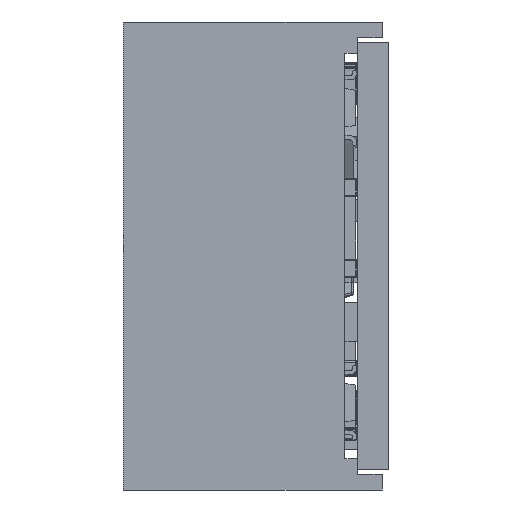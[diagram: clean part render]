
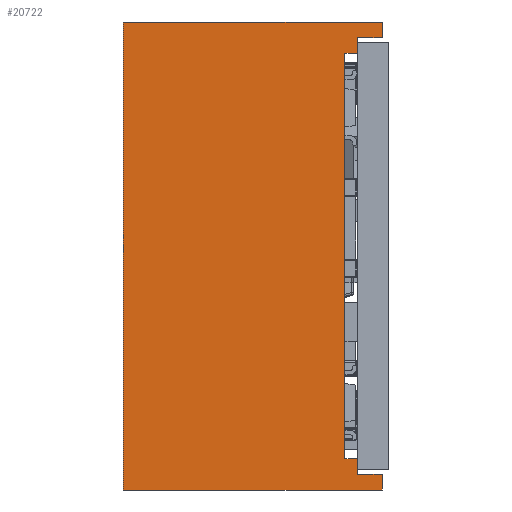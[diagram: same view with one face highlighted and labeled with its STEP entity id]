
A CAD part, left-side view. The second image highlights one B-rep face of the part: STEP entity #20722.
In plain terms, the highlighted planar face has unit normal (-1, 0, 0).
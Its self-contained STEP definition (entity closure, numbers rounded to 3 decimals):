
#1139 = ORIENTED_EDGE ( 'NONE', *, *, #1506, .T. ) ;
#1506 = EDGE_CURVE ( 'NONE', #37704, #31986, #42345, .T. ) ;
#1631 = CARTESIAN_POINT ( 'NONE',  ( -11.7, 0.2, 7.5 ) ) ;
#1651 = VECTOR ( 'NONE', #19368, 1000. ) ;
#2274 = CARTESIAN_POINT ( 'NONE',  ( -11.7, 8.5, -7.5 ) ) ;
#3427 = VECTOR ( 'NONE', #23398, 1000. ) ;
#3536 = CARTESIAN_POINT ( 'NONE',  ( -11.7, 0.2, -7.5 ) ) ;
#4578 = DIRECTION ( 'NONE',  ( 0., -1., 0. ) ) ;
#4691 = VECTOR ( 'NONE', #4578, 1000. ) ;
#5156 = EDGE_LOOP ( 'NONE', ( #25819, #74208, #6156, #56564, #68149, #35603, #1139, #56215, #39573, #58697, #56746, #43160 ) ) ;
#5196 = CARTESIAN_POINT ( 'NONE',  ( -11.7, 4.494, 0. ) ) ;
#6156 = ORIENTED_EDGE ( 'NONE', *, *, #32292, .T. ) ;
#8676 = VECTOR ( 'NONE', #48161, 1000. ) ;
#9864 = EDGE_CURVE ( 'NONE', #45702, #30390, #39982, .T. ) ;
#10115 = DIRECTION ( 'NONE',  ( 0., 0., 1. ) ) ;
#10575 = DIRECTION ( 'NONE',  ( 0., 0., 1. ) ) ;
#10635 = CARTESIAN_POINT ( 'NONE',  ( -11.7, 1.4, -6.5 ) ) ;
#11689 = DIRECTION ( 'NONE',  ( -1., 0., 0. ) ) ;
#12689 = EDGE_CURVE ( 'NONE', #45076, #16164, #20960, .T. ) ;
#13259 = VERTEX_POINT ( 'NONE', #2274 ) ;
#13360 = DIRECTION ( 'NONE',  ( 0., 1., 0. ) ) ;
#15535 = CARTESIAN_POINT ( 'NONE',  ( -11.7, 1., 6.5 ) ) ;
#16164 = VERTEX_POINT ( 'NONE', #66114 ) ;
#16737 = VECTOR ( 'NONE', #63577, 1000. ) ;
#17324 = LINE ( 'NONE', #1631, #45487 ) ;
#19213 = EDGE_CURVE ( 'NONE', #31986, #73732, #62001, .T. ) ;
#19368 = DIRECTION ( 'NONE',  ( 0., 1., 0. ) ) ;
#19484 = CARTESIAN_POINT ( 'NONE',  ( -11.7, 2.347, -7. ) ) ;
#20722 = ADVANCED_FACE ( 'NONE', ( #63508 ), #23127, .T. ) ;
#20960 = LINE ( 'NONE', #32777, #71719 ) ;
#23127 = PLANE ( 'NONE',  #63513 ) ;
#23312 = VERTEX_POINT ( 'NONE', #15535 ) ;
#23398 = DIRECTION ( 'NONE',  ( 0., 0., 1. ) ) ;
#24252 = VECTOR ( 'NONE', #10115, 1000. ) ;
#25819 = ORIENTED_EDGE ( 'NONE', *, *, #57313, .T. ) ;
#26131 = CARTESIAN_POINT ( 'NONE',  ( -11.7, 1., -3.375 ) ) ;
#26840 = VERTEX_POINT ( 'NONE', #56787 ) ;
#28341 = CARTESIAN_POINT ( 'NONE',  ( -11.7, 8.5, 7.5 ) ) ;
#30390 = VERTEX_POINT ( 'NONE', #36959 ) ;
#31765 = VECTOR ( 'NONE', #68265, 1000. ) ;
#31986 = VERTEX_POINT ( 'NONE', #43033 ) ;
#32292 = EDGE_CURVE ( 'NONE', #16164, #26840, #17324, .T. ) ;
#32777 = CARTESIAN_POINT ( 'NONE',  ( -11.7, 0.2, 6.5 ) ) ;
#33230 = CARTESIAN_POINT ( 'NONE',  ( -11.7, 1.4, -6.5 ) ) ;
#33663 = DIRECTION ( 'NONE',  ( 0., 0., 1. ) ) ;
#35603 = ORIENTED_EDGE ( 'NONE', *, *, #58478, .T. ) ;
#36959 = CARTESIAN_POINT ( 'NONE',  ( -11.7, 1.4, 6.5 ) ) ;
#37704 = VERTEX_POINT ( 'NONE', #48735 ) ;
#38170 = LINE ( 'NONE', #69000, #1651 ) ;
#38517 = VECTOR ( 'NONE', #69491, 1000. ) ;
#39573 = ORIENTED_EDGE ( 'NONE', *, *, #40586, .T. ) ;
#39982 = LINE ( 'NONE', #10635, #16737 ) ;
#40586 = EDGE_CURVE ( 'NONE', #73732, #45702, #38170, .T. ) ;
#41810 = EDGE_CURVE ( 'NONE', #26840, #13259, #75234, .T. ) ;
#42077 = LINE ( 'NONE', #69896, #3427 ) ;
#42345 = LINE ( 'NONE', #19484, #44696 ) ;
#43033 = CARTESIAN_POINT ( 'NONE',  ( -11.7, 1., -7. ) ) ;
#43160 = ORIENTED_EDGE ( 'NONE', *, *, #55158, .T. ) ;
#43232 = CARTESIAN_POINT ( 'NONE',  ( -11.7, 8.5, -7.5 ) ) ;
#43696 = CARTESIAN_POINT ( 'NONE',  ( -11.7, 1., -6.5 ) ) ;
#44696 = VECTOR ( 'NONE', #13360, 1000. ) ;
#45076 = VERTEX_POINT ( 'NONE', #73185 ) ;
#45487 = VECTOR ( 'NONE', #70274, 1000. ) ;
#45702 = VERTEX_POINT ( 'NONE', #33230 ) ;
#47901 = EDGE_CURVE ( 'NONE', #30390, #23312, #51851, .T. ) ;
#48161 = DIRECTION ( 'NONE',  ( 0., -1., 0. ) ) ;
#48573 = CARTESIAN_POINT ( 'NONE',  ( -11.7, 1., 7. ) ) ;
#48735 = CARTESIAN_POINT ( 'NONE',  ( -11.7, 0.2, -7. ) ) ;
#49744 = VERTEX_POINT ( 'NONE', #48573 ) ;
#50344 = CARTESIAN_POINT ( 'NONE',  ( -11.7, 2.347, 7. ) ) ;
#51851 = LINE ( 'NONE', #56761, #4691 ) ;
#53955 = VECTOR ( 'NONE', #33663, 1000. ) ;
#55158 = EDGE_CURVE ( 'NONE', #23312, #49744, #42077, .T. ) ;
#56215 = ORIENTED_EDGE ( 'NONE', *, *, #19213, .T. ) ;
#56307 = DIRECTION ( 'NONE',  ( 0., 0., 1. ) ) ;
#56564 = ORIENTED_EDGE ( 'NONE', *, *, #41810, .T. ) ;
#56746 = ORIENTED_EDGE ( 'NONE', *, *, #47901, .T. ) ;
#56761 = CARTESIAN_POINT ( 'NONE',  ( -11.7, 1.4, 6.5 ) ) ;
#56787 = CARTESIAN_POINT ( 'NONE',  ( -11.7, 8.5, 7.5 ) ) ;
#57313 = EDGE_CURVE ( 'NONE', #49744, #45076, #62921, .T. ) ;
#58478 = EDGE_CURVE ( 'NONE', #73649, #37704, #59724, .T. ) ;
#58697 = ORIENTED_EDGE ( 'NONE', *, *, #9864, .T. ) ;
#59724 = LINE ( 'NONE', #3536, #53955 ) ;
#62001 = LINE ( 'NONE', #26131, #24252 ) ;
#62921 = LINE ( 'NONE', #50344, #31765 ) ;
#63508 = FACE_OUTER_BOUND ( 'NONE', #5156, .T. ) ;
#63513 = AXIS2_PLACEMENT_3D ( 'NONE', #5196, #11689, #10575 ) ;
#63577 = DIRECTION ( 'NONE',  ( 0., 0., 1. ) ) ;
#65438 = EDGE_CURVE ( 'NONE', #13259, #73649, #72236, .T. ) ;
#66114 = CARTESIAN_POINT ( 'NONE',  ( -11.7, 0.2, 7.5 ) ) ;
#66528 = CARTESIAN_POINT ( 'NONE',  ( -11.7, 0.2, -7.5 ) ) ;
#68149 = ORIENTED_EDGE ( 'NONE', *, *, #65438, .T. ) ;
#68265 = DIRECTION ( 'NONE',  ( 0., -1., 0. ) ) ;
#69000 = CARTESIAN_POINT ( 'NONE',  ( -11.7, 0.2, -6.5 ) ) ;
#69491 = DIRECTION ( 'NONE',  ( 0., 0., -1. ) ) ;
#69896 = CARTESIAN_POINT ( 'NONE',  ( -11.7, 1., 3.375 ) ) ;
#70274 = DIRECTION ( 'NONE',  ( 0., 1., 0. ) ) ;
#71719 = VECTOR ( 'NONE', #56307, 1000. ) ;
#72236 = LINE ( 'NONE', #43232, #8676 ) ;
#73185 = CARTESIAN_POINT ( 'NONE',  ( -11.7, 0.2, 7. ) ) ;
#73649 = VERTEX_POINT ( 'NONE', #66528 ) ;
#73732 = VERTEX_POINT ( 'NONE', #43696 ) ;
#74208 = ORIENTED_EDGE ( 'NONE', *, *, #12689, .T. ) ;
#75234 = LINE ( 'NONE', #28341, #38517 ) ;
